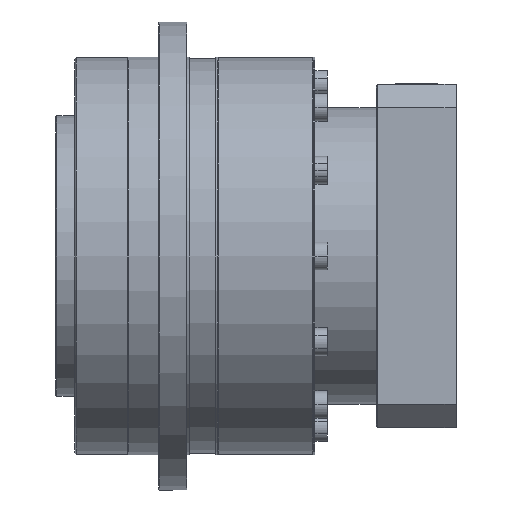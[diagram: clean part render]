
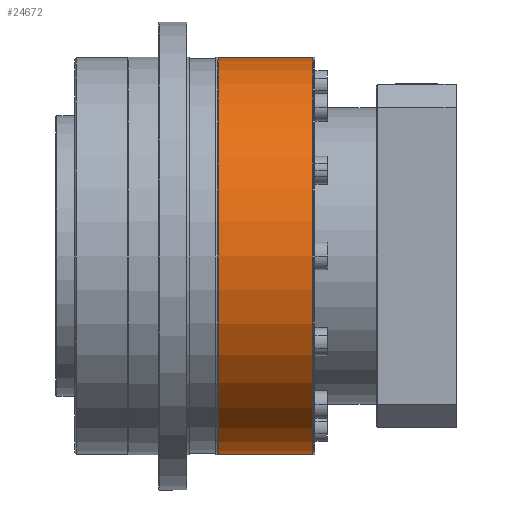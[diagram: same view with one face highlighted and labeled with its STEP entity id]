
A CAD part, left-side view. The second image highlights one B-rep face of the part: STEP entity #24672.
In plain terms, the highlighted cylindrical face has radius 127 mm (diameter 254 mm), a partial arc.
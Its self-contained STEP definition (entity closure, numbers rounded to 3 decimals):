
#522 = CARTESIAN_POINT ( 'NONE',  ( -53.74, -54.569, 0. ) ) ;
#1930 = LINE ( 'NONE', #4388, #12377 ) ;
#1958 = DIRECTION ( 'NONE',  ( 0., -1., 0. ) ) ;
#2056 = VERTEX_POINT ( 'NONE', #2237 ) ;
#2225 = DIRECTION ( 'NONE',  ( 0., 0., -1. ) ) ;
#2237 = CARTESIAN_POINT ( 'NONE',  ( -53.74, 46.631, -127. ) ) ;
#3468 = CIRCLE ( 'NONE', #7294, 127. ) ;
#3628 = ORIENTED_EDGE ( 'NONE', *, *, #20414, .T. ) ;
#4388 = CARTESIAN_POINT ( 'NONE',  ( -53.74, -54.569, -127. ) ) ;
#4471 = VECTOR ( 'NONE', #18630, 1000. ) ;
#4690 = DIRECTION ( 'NONE',  ( 0., 0., -1. ) ) ;
#6267 = ORIENTED_EDGE ( 'NONE', *, *, #12795, .F. ) ;
#6591 = ORIENTED_EDGE ( 'NONE', *, *, #7756, .T. ) ;
#6790 = CARTESIAN_POINT ( 'NONE',  ( -53.74, 46.631, 0. ) ) ;
#7294 = AXIS2_PLACEMENT_3D ( 'NONE', #6790, #23458, #4690 ) ;
#7756 = EDGE_CURVE ( 'NONE', #25219, #2056, #3468, .T. ) ;
#8063 = AXIS2_PLACEMENT_3D ( 'NONE', #12536, #1958, #2225 ) ;
#8910 = EDGE_CURVE ( 'NONE', #21948, #17425, #21756, .T. ) ;
#10784 = DIRECTION ( 'NONE',  ( 0., -1., 0. ) ) ;
#11013 = DIRECTION ( 'NONE',  ( 0., 0., -1. ) ) ;
#12377 = VECTOR ( 'NONE', #10784, 1000. ) ;
#12536 = CARTESIAN_POINT ( 'NONE',  ( -53.74, -13.869, 0. ) ) ;
#12795 = EDGE_CURVE ( 'NONE', #25219, #21948, #18545, .T. ) ;
#14021 = AXIS2_PLACEMENT_3D ( 'NONE', #522, #25866, #11013 ) ;
#15165 = CARTESIAN_POINT ( 'NONE',  ( -53.74, -13.869, 127. ) ) ;
#15858 = CARTESIAN_POINT ( 'NONE',  ( -53.74, 46.631, 127. ) ) ;
#16539 = CARTESIAN_POINT ( 'NONE',  ( -53.74, -54.569, 127. ) ) ;
#16583 = CARTESIAN_POINT ( 'NONE',  ( -53.74, -13.869, -127. ) ) ;
#17425 = VERTEX_POINT ( 'NONE', #16583 ) ;
#17899 = FACE_OUTER_BOUND ( 'NONE', #22157, .T. ) ;
#18545 = LINE ( 'NONE', #16539, #4471 ) ;
#18630 = DIRECTION ( 'NONE',  ( 0., -1., 0. ) ) ;
#20414 = EDGE_CURVE ( 'NONE', #2056, #17425, #1930, .T. ) ;
#21756 = CIRCLE ( 'NONE', #8063, 127. ) ;
#21948 = VERTEX_POINT ( 'NONE', #15165 ) ;
#22157 = EDGE_LOOP ( 'NONE', ( #6267, #6591, #3628, #26417 ) ) ;
#23458 = DIRECTION ( 'NONE',  ( 0., -1., 0. ) ) ;
#24672 = ADVANCED_FACE ( 'NONE', ( #17899 ), #25741, .T. ) ;
#25219 = VERTEX_POINT ( 'NONE', #15858 ) ;
#25741 = CYLINDRICAL_SURFACE ( 'NONE', #14021, 127. ) ;
#25866 = DIRECTION ( 'NONE',  ( 0., -1., 0. ) ) ;
#26417 = ORIENTED_EDGE ( 'NONE', *, *, #8910, .F. ) ;
